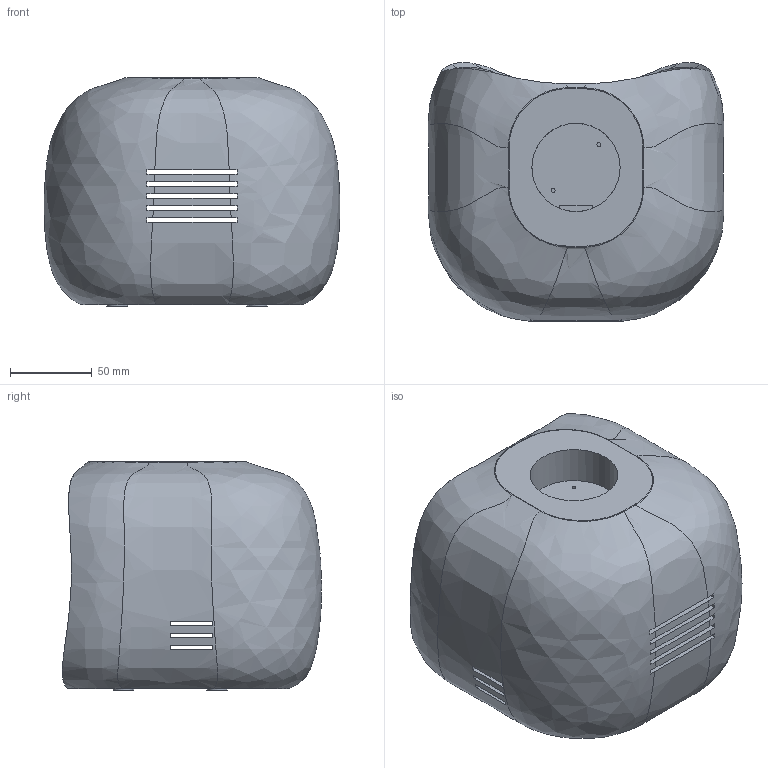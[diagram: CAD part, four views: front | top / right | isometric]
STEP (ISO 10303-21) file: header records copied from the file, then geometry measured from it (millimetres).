
FILE_DESCRIPTION(('FreeCAD Model'),'2;1');
FILE_NAME('Open CASCADE Shape Model','2026-10-26T18:20:30',('FreeCAD'),( 'FreeCAD'),'Open CASCADE STEP processor 7.8','FreeCAD','Unknown');
FILE_SCHEMA(('AUTOMOTIVE_DESIGN { 1 0 10303 214 1 1 1 1 }'));
Length unit declared in the file: millimetre
Products named in the file (1): Open CASCADE STEP translator 7.8 7
Bounding box: 180.87 x 158.54 x 139.54 mm (x, y, z)
Volume: 338054.2 mm3; surface area: 202143.5 mm2
Topology: 1 solids, 1 shells, 504 faces, 1493 edges, 1011 vertices
Faces by surface type: plane 323, cylinder 79, bspline 71, sphere 18, extrusion 8, cone 4, torus 1
Full cylindrical faces by diameter (mm): 2.4 x2, 2.9 x4, 3.4 x10, 3.68 x2, 3.78 x2, 12 x3, 54 x1, 60 x1
Entity records: 34252 total; most frequent: CARTESIAN_POINT 21674, ORIENTED_EDGE 2986, DIRECTION 2138, EDGE_CURVE 1493, VERTEX_POINT 1011, AXIS2_PLACEMENT_3D 721, VECTOR 696, LINE 688
